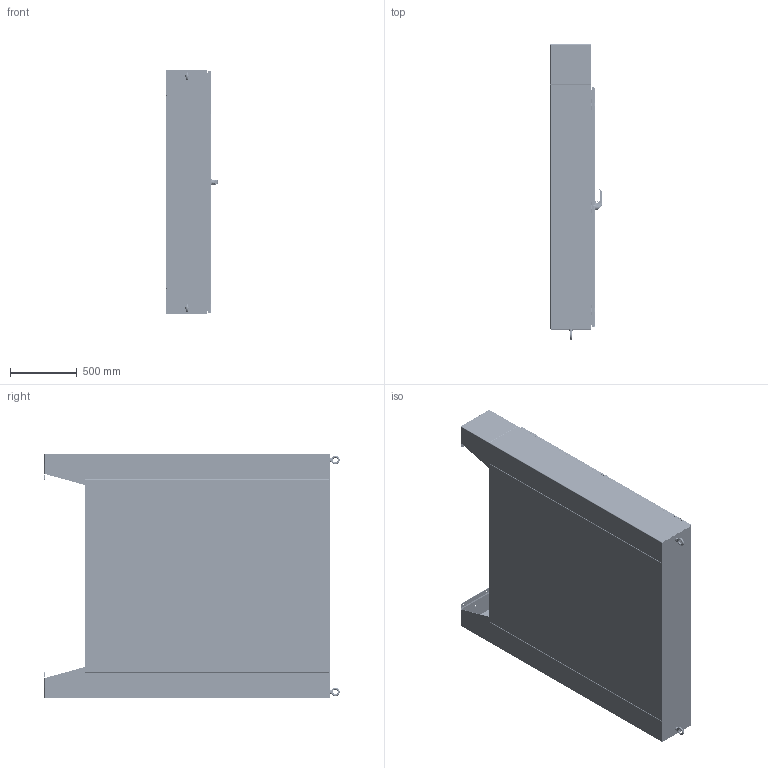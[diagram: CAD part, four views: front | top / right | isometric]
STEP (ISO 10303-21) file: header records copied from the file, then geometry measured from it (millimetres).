
FILE_DESCRIPTION((''),'2;1');
FILE_NAME('MODEL-151_ASM','2025-05-09T15:45:27',('johnh'),('SAGINAW CONTROL & ENGINEERING'),'CREO PARAMETRIC BY PTC INC, 2021284','CREO PARAMETRIC BY PTC INC, 2021284','');
FILE_SCHEMA(('AUTOMOTIVE_DESIGN { 1 0 10303 214 1 1 1 1 }'));
Length unit declared in the file: inch
Products named in the file (72): MODEL-151-BTM; MODEL-151-RS; MODEL-151-LS; MODEL-151-TP; MODEL-151-BCK; MODEL-151-MSTR; 100837; 111267; 100882; 100955_SCREW_MTG; 100955_PADLOCK_CATCH; 100955_SCREW_LARGE; 100955_INSERT_SHAFT; 100955_INSERT_PKH; 100955_GASKET; 100955_O-RING; 100955_BASE; 100955_SPRING; 100955_HANDLE; 100955_CAM_SHAFT; 100955_HANDLE_ASM; 100955_CAM_ADAPTER; 100955_EARTH_NUT; 100955_FLANGE_NUT; 100955_CAM_NUT; 100955_KEY_INSERT; 100955_SPRING_CAM; 100955_TORSION_SPRING; 100955_SCREW_INSERT; 100955_ASM; 102236; 100030; 102236_ASM; MODEL-151-ROD-UPR; 128146; 128145; 128144; 102482; MODEL-151-ROD-UPR_ASM; 128143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
Assembly tree (151 placements, depth 5):
  MODEL-151_ASM
    MODEL-151-BTM
    MODEL-151-RS
    MODEL-151-LS
    MODEL-151-TP
    MODEL-151-BCK
    MODEL-151-MASTER-DR-ASSY_ASM
      MODEL-151-MSTR
      100837  x5
      111267
      100882  x10
      100955_ASM
        100955_SCREW_MTG
        100955_PADLOCK_CATCH
        100955_SCREW_LARGE  x2
        100955_INSERT_SHAFT
        100955_INSERT_PKH
        100955_GASKET
        100955_O-RING
        100955_BASE
        100955_SPRING
        100955_HANDLE_ASM
          100955_HANDLE
          100955_CAM_SHAFT
        100955_CAM_ADAPTER
        100955_EARTH_NUT
        100955_FLANGE_NUT
        100955_CAM_NUT
        100955_KEY_INSERT
        100955_SPRING_CAM
        100955_TORSION_SPRING
        100955_SCREW_INSERT
      102236_ASM
        102236
        100030  x2
      MODEL-151-ROD-UPR_ASM
        MODEL-151-ROD-UPR
        128146
        128145
        128144
        102482  x2
      128143  x2
      112504  x2
      MODEL-151-ROD-LWR_ASM
        MODEL-151-ROD-LWR
        128146
        128145
        128144
        102482  x2
      MODEL-151-PR-GSKT-M
      128257_ASM  x3
        128257
      126393  x3
      102483  x3
      101369_ASM  x3
        101369
        101369-STUD
      101221  x3
    MODEL-151-SLAVE-DR-ASSY_ASM
      MODEL-151-SLV
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Bounding box: 383.05 x 2208.4 x 1828.8 mm (x, y, z)
Volume: 38880232.8 mm3; surface area: 27800577.5 mm2
Topology: 161 solids, 161 shells, 15057 faces, 38652 edges, 23977 vertices
Faces by surface type: plane 5194, cylinder 3983, bspline 3696, torus 1059, cone 757, sphere 338, extrusion 30
Entity records: 398904 total; most frequent: CARTESIAN_POINT 156622, ORIENTED_EDGE 36586, DIRECTION 33463, PRESENTATION_STYLE_ASSIGNMENT 19362, STYLED_ITEM 19357, EDGE_CURVE 18293, CURVE_STYLE 18245, AXIS2_PLACEMENT_3D 12504
